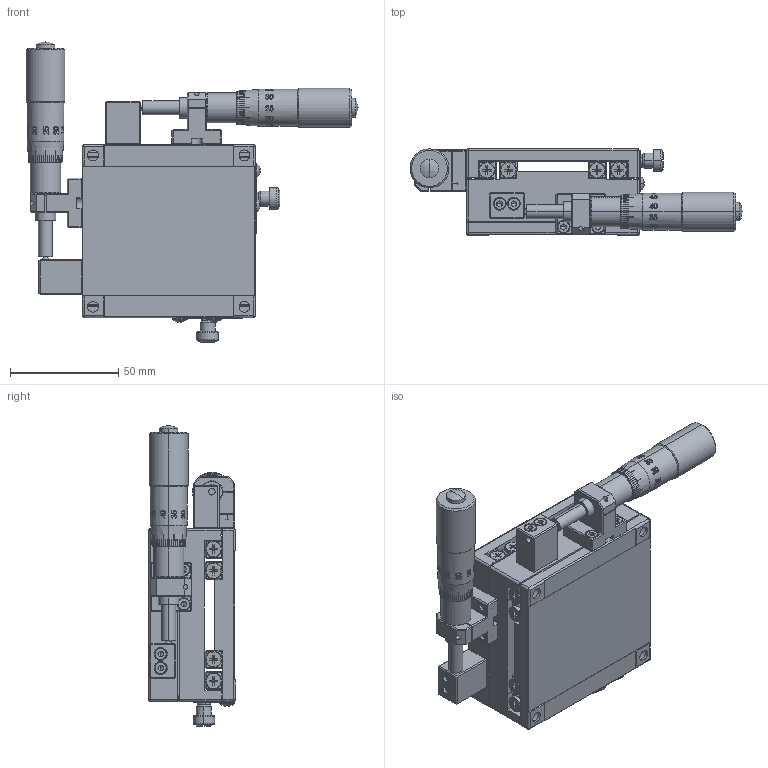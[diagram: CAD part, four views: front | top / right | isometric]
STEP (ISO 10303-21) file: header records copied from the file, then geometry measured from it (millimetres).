
FILE_DESCRIPTION (( 'STEP AP203' ), '1' );
FILE_NAME ('MY80-AS.STEP', '2013-04-29T01:38:24', ( '123' ), ( '' ), 'SwSTEP 2.0', 'SolidWorks 2013', '' );
FILE_SCHEMA (( 'CONFIG_CONTROL_DESIGN' ));
Length unit declared in the file: millimetre
Products named in the file (4): MY80-AS; Group1^MY80-AS; Group2^MY80-AS; Group3^MY80-AS
Assembly tree (3 placements, depth 2):
  MY80-AS
    Group1^MY80-AS
    Group2^MY80-AS
    Group3^MY80-AS
Bounding box: 153.5 x 40 x 138.9 mm (x, y, z)
Volume: 268277.4 mm3; surface area: 95652 mm2
Topology: 40 solids, 40 shells, 5427 faces, 14077 edges, 8962 vertices
Faces by surface type: plane 3442, cylinder 885, bspline 680, cone 298, torus 100, sphere 22
Entity records: 223601 total; most frequent: CARTESIAN_POINT 95296, ORIENTED_EDGE 28010, DIRECTION 24093, EDGE_CURVE 14005, VERTEX_POINT 8956, LINE 8795, VECTOR 8795, AXIS2_PLACEMENT_3D 7649
